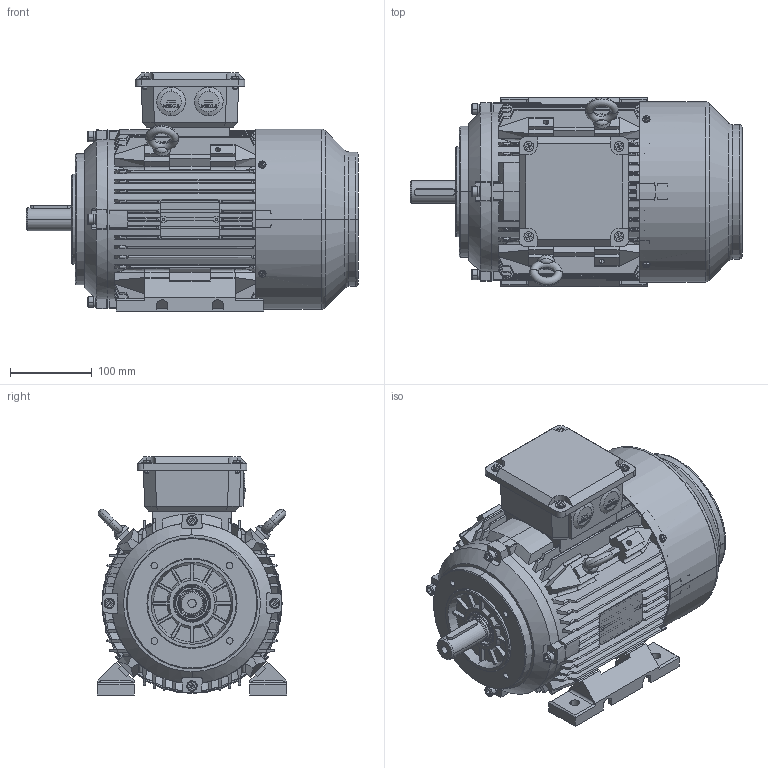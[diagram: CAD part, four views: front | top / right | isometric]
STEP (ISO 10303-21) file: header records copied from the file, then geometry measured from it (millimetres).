
FILE_DESCRIPTION (( 'STEP AP214' ), '1' );
FILE_NAME ('BCT4400.11D434.11.step', '2020-04-23T14:16:04', ( '' ), ( '' ), 'SwSTEP 2.0', 'SolidWorks 2019', '' );
FILE_SCHEMA (( 'AUTOMOTIVE_DESIGN' ));
Length unit declared in the file: millimetre
Products named in the file (1): BCT4400.11D434.11
Bounding box: 405 x 230.66 x 290.47 mm (x, y, z)
Volume: 3127222.7 mm3; surface area: 1228536.3 mm2
Topology: 34 solids, 34 shells, 3802 faces, 10500 edges, 6862 vertices
Faces by surface type: plane 1946, cylinder 1307, cone 301, bspline 148, torus 100
Entity records: 144958 total; most frequent: CARTESIAN_POINT 47603, ORIENTED_EDGE 20952, DIRECTION 19313, EDGE_CURVE 10476, VERTEX_POINT 6862, AXIS2_PLACEMENT_3D 6559, LINE 6195, VECTOR 6195
